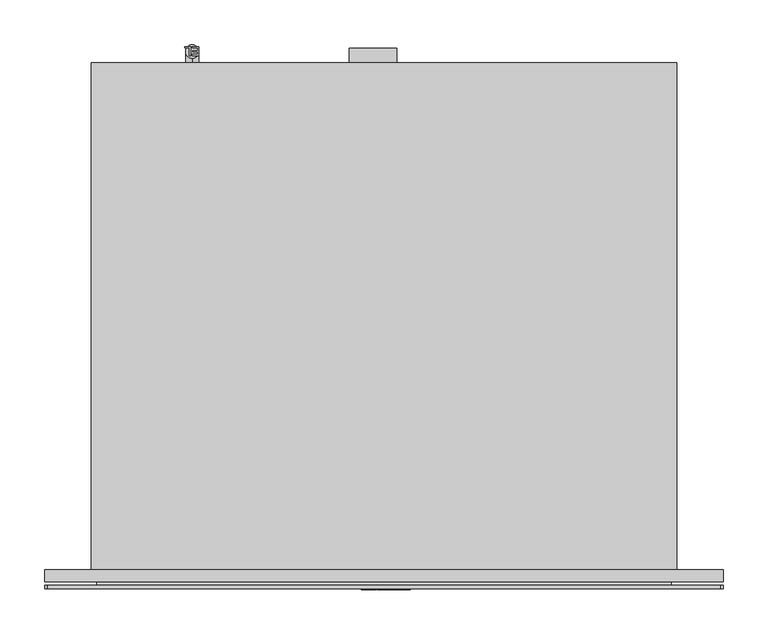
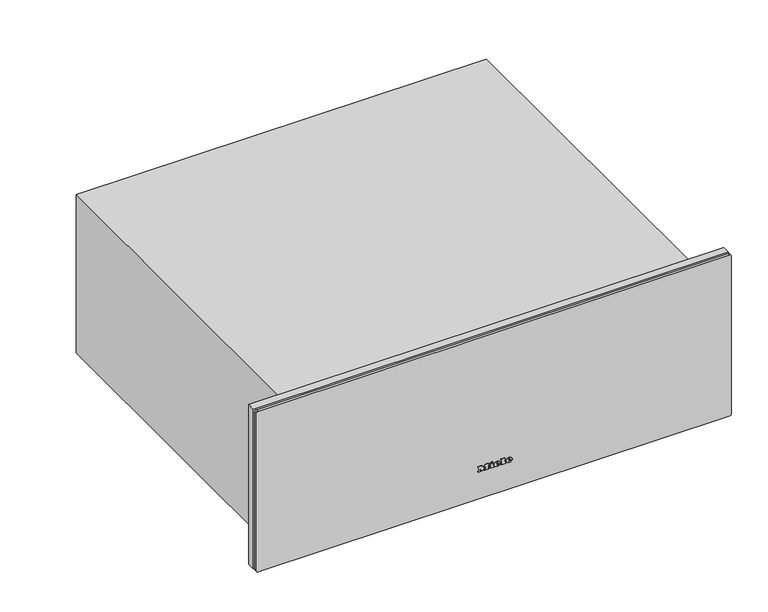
"""IFC4 building model written with IfcOpenShell, lengths in millimetres: proxy geometry, 11788760_BR_ESW7680_GRGR : 30768030_BR_11788760_ESW7680_GRGR."""

from ifc_helpers import new_model, si_unit, point, frame, frame_2d, origin, place, context, project, spatial, polyline, circle_curve, ellipse_curve, trimmed, segment, composite_curve, outline, extrude, faceted_brep, source, transform, mapped, element, save
from ifc_brep_helpers import plane_surface, cylinder_surface, revolved_surface, extruded_surface, advanced_brep


def specialty_equipment_8b60e592(model_context):
    return source(origin(), model_context, "Body", "SolidModel", [
        advanced_brep(
        [(23.263, -22.0, 52.133), (23.263, -22.0, 53.042), (29.284, -22.0, 53.042), (18.808, -22.0, 53.042), (21.283, -22.0, 50.0), (29.131, -22.0, 52.133), (26.413, -22.0, 52.133), (24.271, -22.0, 51.125), (23.263, -22.0, 54.194), (23.263, -22.0, 55.175), (24.802, -22.0, 55.175), (24.802, -22.0, 54.194), (23.263, -21.0, 52.133), (24.271, -21.0, 51.125), (26.413, -21.0, 52.133), (29.131, -21.0, 52.133), (21.283, -21.0, 50.0), (18.808, -21.0, 53.042), (29.284, -21.0, 53.042), (23.263, -21.0, 53.042), (23.263, -21.0, 54.194), (24.802, -21.0, 54.194), (24.802, -21.0, 55.175), (23.263, -21.0, 55.175)],
        [
            (0, 1),
            (1, 2),
            (2, 3, ellipse_curve(frame((24.046, -22.0, 53.042), z_axis=(0.0, -1.0, 0.0), x_axis=(-1.0, 0.0, 0.0)), 5.238, 4.329)),
            (3, 4, circle_curve(frame((22.2910491, -22.0, 53.348), z_axis=(0.0, -1.0, 0.0), x_axis=(0.0, 0.0, -1.0)), 3.4964649)),
            (4, 5, circle_curve(frame((23.9411428, -22.0, 55.724), z_axis=(0.0, -1.0, 0.0), x_axis=(0.0, 0.0, -1.0)), 6.3110933)),
            (5, 6),
            (6, 7, circle_curve(frame((24.7109412, -22.0, 52.97), z_axis=(0.0, 1.0, 0.0), x_axis=(0.0, 0.0, -1.0)), 1.896727)),
            (7, 0, circle_curve(frame((24.271, -22.0, 52.133), z_axis=(0.0, 1.0, 0.0), x_axis=(0.0, 0.0, -1.0)), 1.008)),
            (8, 9),
            (9, 10, circle_curve(frame((24.0325, -22.0, 55.175), z_axis=(0.0, 1.0, 0.0), x_axis=(0.0, 0.0, -1.0)), 0.7695)),
            (10, 11),
            (11, 8),
            (12, 13, circle_curve(frame((24.271, -21.0, 52.133), z_axis=(0.0, -1.0, 0.0), x_axis=(0.0, 0.0, -1.0)), 1.008)),
            (13, 14, circle_curve(frame((24.7109412, -21.0, 52.97), z_axis=(0.0, -1.0, 0.0), x_axis=(0.0, 0.0, -1.0)), 1.896727)),
            (14, 15),
            (15, 16, circle_curve(frame((23.9411428, -21.0, 55.724), z_axis=(0.0, 1.0, 0.0), x_axis=(0.0, 0.0, -1.0)), 6.3110933)),
            (16, 17, circle_curve(frame((22.2910491, -21.0, 53.348), z_axis=(0.0, 1.0, 0.0), x_axis=(0.0, 0.0, -1.0)), 3.4964649)),
            (17, 18, ellipse_curve(frame((24.046, -21.0, 53.042), z_axis=(0.0, 1.0, 0.0), x_axis=(-1.0, 0.0, 0.0)), 5.238, 4.329)),
            (18, 19),
            (19, 12),
            (20, 21),
            (21, 22),
            (22, 23, circle_curve(frame((24.0325, -21.0, 55.175), z_axis=(0.0, -1.0, 0.0), x_axis=(0.0, 0.0, -1.0)), 0.7695)),
            (23, 20),
            (0, 12),
            (19, 1),
            (18, 2),
            (5, 15),
            (14, 6),
            (17, 3),
            (13, 7),
            (16, 4),
            (8, 20),
            (23, 9),
            (22, 10),
            (21, 11),
        ],
        [
            plane_surface(frame((23.263, -22.0, 53.042), z_axis=(0.0, -1.0, 0.0), x_axis=(0.0, 0.0, 1.0))),
            plane_surface(frame((23.263, -21.0, 53.042), z_axis=(0.0, 1.0, 0.0), x_axis=(0.0, 0.0, -1.0))),
            plane_surface(frame((23.263, -22.0, 52.133), z_axis=(1.0, 0.0, 0.0), x_axis=(0.0, 1.0, 0.0))),
            plane_surface(frame((23.263, -22.0, 53.042), z_axis=(0.0, 0.0, -1.0), x_axis=(0.0, 1.0, 0.0))),
            plane_surface(frame((29.131, -22.0, 52.133), z_axis=(0.0, 0.0, 1.0), x_axis=(0.0, 1.0, 0.0))),
            extruded_surface(trimmed(ellipse_curve(frame((24.046, -20.0, 53.042), z_axis=(0.0, -1.0, 0.0), x_axis=(-1.0, 0.0, 0.0)), 5.238, 4.329), [point((29.284, -20.0, 53.042))], [point((18.808, -20.0, 53.042))], True, "CARTESIAN"), (0.0, -1.0, 0.0), 1.0),
            revolved_surface(polyline([(24.7109412, -21.0, 51.073273), (24.7109412, -22.0, 51.073273)]), (24.7109412, -21.0, 52.97), (0.0, 1.0, 0.0)),
            revolved_surface(polyline([(24.271, -21.0, 51.125), (24.271, -22.0, 51.125)]), (24.271, -21.0, 52.133), (0.0, 1.0, 0.0)),
            cylinder_surface(frame((22.2910491, -21.0, 53.348), z_axis=(0.0, -1.0, 0.0), x_axis=(0.0, 0.0, -1.0)), 3.4964649),
            cylinder_surface(frame((23.9411428, -21.0, 55.724), z_axis=(0.0, -1.0, 0.0), x_axis=(0.0, 0.0, -1.0)), 6.3110933),
            plane_surface(frame((23.263, -22.0, 54.194), z_axis=(1.0, 0.0, 0.0), x_axis=(0.0, 1.0, 0.0))),
            revolved_surface(polyline([(24.0325, -21.0, 54.405499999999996), (24.0325, -22.0, 54.405499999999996)]), (24.0325, -21.0, 55.175), (0.0, 1.0, 0.0)),
            plane_surface(frame((24.802, -22.0, 55.175), z_axis=(-1.0, 0.0, 0.0), x_axis=(0.0, 1.0, 0.0))),
            plane_surface(frame((24.802, -22.0, 54.194), z_axis=(0.0, 0.0, 1.0), x_axis=(0.0, 1.0, 0.0))),
        ],
        [
            (0, [[1, 2, 3, 4, 5, 6, 7, 8], [9, 10, 11, 12]]),
            (1, [[13, 14, 15, 16, 17, 18, 19, 20], [21, 22, 23, 24]]),
            (2, [[-1, 25, -20, 26]]),
            (3, [[-2, -26, -19, 27]]),
            (4, [[-6, 28, -15, 29]]),
            (5, [[-3, -27, -18, 30]]),
            (6, [[-7, -29, -14, 31]]),
            (7, [[-8, -31, -13, -25]]),
            (8, [[-4, -30, -17, 32]]),
            (9, [[-5, -32, -16, -28]]),
            (10, [[-9, 33, -24, 34]]),
            (11, [[-10, -34, -23, 35]]),
            (12, [[-11, -35, -22, 36]]),
            (13, [[-12, -36, -21, -33]]),
        ],
    ),
        advanced_brep(
        [(4.48, -22.0, 52.133), (4.48, -22.0, 53.042), (10.501, -22.0, 53.042), (0.025, -22.0, 53.042), (2.5, -22.0, 50.0), (10.348, -22.0, 52.133), (7.63, -22.0, 52.133), (5.488, -22.0, 51.125), (4.48, -22.0, 54.194), (4.48, -22.0, 55.175), (6.019, -22.0, 55.175), (6.019, -22.0, 54.194), (4.48, -21.0, 52.133), (5.488, -21.0, 51.125), (7.63, -21.0, 52.133), (10.348, -21.0, 52.133), (2.5, -21.0, 50.0), (0.025, -21.0, 53.042), (10.501, -21.0, 53.042), (4.48, -21.0, 53.042), (4.48, -21.0, 54.194), (6.019, -21.0, 54.194), (6.019, -21.0, 55.175), (4.48, -21.0, 55.175)],
        [
            (0, 1),
            (1, 2),
            (2, 3, ellipse_curve(frame((5.263, -22.0, 53.042), z_axis=(0.0, -1.0, 0.0), x_axis=(-1.0, 0.0, 0.0)), 5.238, 4.329)),
            (3, 4, circle_curve(frame((3.5080491, -22.0, 53.348), z_axis=(0.0, -1.0, 0.0), x_axis=(0.0, 0.0, -1.0)), 3.4964649)),
            (4, 5, circle_curve(frame((5.1581428, -22.0, 55.724), z_axis=(0.0, -1.0, 0.0), x_axis=(0.0, 0.0, -1.0)), 6.3110933)),
            (5, 6),
            (6, 7, circle_curve(frame((5.9279412, -22.0, 52.97), z_axis=(0.0, 1.0, 0.0), x_axis=(0.0, 0.0, -1.0)), 1.896727)),
            (7, 0, circle_curve(frame((5.488, -22.0, 52.133), z_axis=(0.0, 1.0, 0.0), x_axis=(0.0, 0.0, -1.0)), 1.008)),
            (8, 9),
            (9, 10, circle_curve(frame((5.2495, -22.0, 55.175), z_axis=(0.0, 1.0, 0.0), x_axis=(0.0, 0.0, -1.0)), 0.7695)),
            (10, 11),
            (11, 8),
            (12, 13, circle_curve(frame((5.488, -21.0, 52.133), z_axis=(0.0, -1.0, 0.0), x_axis=(0.0, 0.0, -1.0)), 1.008)),
            (13, 14, circle_curve(frame((5.9279412, -21.0, 52.97), z_axis=(0.0, -1.0, 0.0), x_axis=(0.0, 0.0, -1.0)), 1.896727)),
            (14, 15),
            (15, 16, circle_curve(frame((5.1581428, -21.0, 55.724), z_axis=(0.0, 1.0, 0.0), x_axis=(0.0, 0.0, -1.0)), 6.3110933)),
            (16, 17, circle_curve(frame((3.5080491, -21.0, 53.348), z_axis=(0.0, 1.0, 0.0), x_axis=(0.0, 0.0, -1.0)), 3.4964649)),
            (17, 18, ellipse_curve(frame((5.263, -21.0, 53.042), z_axis=(0.0, 1.0, 0.0), x_axis=(-1.0, 0.0, 0.0)), 5.238, 4.329)),
            (18, 19),
            (19, 12),
            (20, 21),
            (21, 22),
            (22, 23, circle_curve(frame((5.2495, -21.0, 55.175), z_axis=(0.0, -1.0, 0.0), x_axis=(0.0, 0.0, -1.0)), 0.7695)),
            (23, 20),
            (0, 12),
            (19, 1),
            (18, 2),
            (5, 15),
            (14, 6),
            (17, 3),
            (13, 7),
            (16, 4),
            (8, 20),
            (23, 9),
            (22, 10),
            (21, 11),
        ],
        [
            plane_surface(frame((4.48, -22.0, 53.042), z_axis=(0.0, -1.0, 0.0), x_axis=(0.0, 0.0, 1.0))),
            plane_surface(frame((4.48, -21.0, 53.042), z_axis=(0.0, 1.0, 0.0), x_axis=(0.0, 0.0, -1.0))),
            plane_surface(frame((4.48, -22.0, 52.133), z_axis=(1.0, 0.0, 0.0), x_axis=(0.0, 1.0, 0.0))),
            plane_surface(frame((4.48, -22.0, 53.042), z_axis=(0.0, 0.0, -1.0), x_axis=(0.0, 1.0, 0.0))),
            plane_surface(frame((10.348, -22.0, 52.133), z_axis=(0.0, 0.0, 1.0), x_axis=(0.0, 1.0, 0.0))),
            extruded_surface(trimmed(ellipse_curve(frame((5.263, -20.0, 53.042), z_axis=(0.0, -1.0, 0.0), x_axis=(-1.0, 0.0, 0.0)), 5.238, 4.329), [point((10.501, -20.0, 53.042))], [point((0.025, -20.0, 53.042))], True, "CARTESIAN"), (0.0, -1.0, 0.0), 1.0),
            revolved_surface(polyline([(5.9279412, -21.0, 51.073273), (5.9279412, -22.0, 51.073273)]), (5.9279412, -21.0, 52.97), (0.0, 1.0, 0.0)),
            revolved_surface(polyline([(5.488, -21.0, 51.125), (5.488, -22.0, 51.125)]), (5.488, -21.0, 52.133), (0.0, 1.0, 0.0)),
            cylinder_surface(frame((3.5080491, -21.0, 53.348), z_axis=(0.0, -1.0, 0.0), x_axis=(0.0, 0.0, -1.0)), 3.4964649),
            cylinder_surface(frame((5.1581428, -21.0, 55.724), z_axis=(0.0, -1.0, 0.0), x_axis=(0.0, 0.0, -1.0)), 6.3110933),
            plane_surface(frame((4.48, -22.0, 54.194), z_axis=(1.0, 0.0, 0.0), x_axis=(0.0, 1.0, 0.0))),
            revolved_surface(polyline([(5.2495, -21.0, 54.405499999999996), (5.2495, -22.0, 54.405499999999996)]), (5.2495, -21.0, 55.175), (0.0, 1.0, 0.0)),
            plane_surface(frame((6.019, -22.0, 55.175), z_axis=(-1.0, 0.0, 0.0), x_axis=(0.0, 1.0, 0.0))),
            plane_surface(frame((6.019, -22.0, 54.194), z_axis=(0.0, 0.0, 1.0), x_axis=(0.0, 1.0, 0.0))),
        ],
        [
            (0, [[1, 2, 3, 4, 5, 6, 7, 8], [9, 10, 11, 12]]),
            (1, [[13, 14, 15, 16, 17, 18, 19, 20], [21, 22, 23, 24]]),
            (2, [[-1, 25, -20, 26]]),
            (3, [[-2, -26, -19, 27]]),
            (4, [[-6, 28, -15, 29]]),
            (5, [[-3, -27, -18, 30]]),
            (6, [[-7, -29, -14, 31]]),
            (7, [[-8, -31, -13, -25]]),
            (8, [[-4, -30, -17, 32]]),
            (9, [[-5, -32, -16, -28]]),
            (10, [[-9, 33, -24, 34]]),
            (11, [[-10, -34, -23, 35]]),
            (12, [[-11, -35, -22, 36]]),
            (13, [[-12, -36, -21, -33]]),
        ],
    ),
        extrude(outline(polyline([(58.469, -5.357), (57.011, -4.673), (58.433, -1.622), (59.891, -2.297), (58.469, -5.357)])), frame((0.0, -22.0, 0.0), z_axis=(0.0, 1.0, 0.0), x_axis=(0.0, 0.0, 1.0)), (0.0, 0.0, 1.0), 1.0),
        extrude(outline(polyline([(56.813, -7.58), (55.202, -7.58), (55.202, -6.509), (51.512, -6.509), (51.512, -7.58), (50.0, -7.58), (50.0, -0.479), (51.512, -0.479), (51.512, -1.523), (56.813, -1.523), (56.813, -7.58)])), frame((0.0, -22.0, 0.0), z_axis=(0.0, 1.0, 0.0), x_axis=(0.0, 0.0, 1.0)), (0.0, 0.0, 1.0), 1.0),
        extrude(outline(polyline([(57.533, 11.005), (57.533, 12.085), (51.512, 12.085), (51.512, 11.005), (50.0, 11.005), (50.0, 18.304), (51.512, 18.304), (51.512, 17.197), (59.0, 17.197), (59.0, 11.005), (57.533, 11.005)])), frame((0.0, -22.0, 0.0), z_axis=(0.0, 1.0, 0.0), x_axis=(0.0, 0.0, 1.0)), (0.0, 0.0, 1.0), 1.0),
        extrude(outline(polyline([(57.533, -25.517), (57.533, -24.428), (51.512, -24.428), (51.512, -25.517), (50.0, -25.517), (50.0, -21.557), (51.512, -21.557), (51.512, -22.637), (55.3341247, -22.637), (50.0, -18.614), (55.4402223, -14.573), (51.512, -14.573), (51.512, -15.68), (50.0, -15.68), (50.0, -8.498), (51.512, -8.498), (51.512, -9.641), (57.533, -9.641), (57.533, -8.498), (59.0, -8.498), (59.0, -13.979), (55.625, -16.607), (59.0, -19.244), (59.0, -25.517), (57.533, -25.517)])), frame((0.0, -22.0, 0.0), z_axis=(0.0, 1.0, 0.0), x_axis=(0.0, 0.0, 1.0)), (0.0, 0.0, 1.0), 1.0),
        extrude(outline(polyline([(19.0, 249.0), (19.0, 208.0), (4.0, 208.0), (4.0, 65.0), (-13.0, 65.0), (-13.0, 249.0), (19.0, 249.0)])), frame((-316.5, 0.0, 0.0), z_axis=(1.0, 0.0, 0.0), x_axis=(0.0, 1.0, 0.0)), (0.0, 0.0, 1.0), 633.0),
        extrude(outline(composite_curve([segment(polyline([(275.0, 375.5), (275.0, -375.5)]), True, "CONTINUOUS"), segment(trimmed(circle_curve(frame_2d((272.0, -375.5)), 3.0), [point((275.0, -375.5))], [point((272.0, -378.5))], False, "CARTESIAN"), True, "CONTINUOUS"), segment(polyline([(272.0, -378.5), (7.0, -378.5)]), True, "CONTINUOUS"), segment(trimmed(circle_curve(frame_2d((7.0, -375.5)), 3.0), [point((7.0, -378.5))], [point((4.0, -375.5))], False, "CARTESIAN"), True, "CONTINUOUS"), segment(polyline([(4.0, -375.5), (4.0, 375.5)]), True, "CONTINUOUS"), segment(trimmed(circle_curve(frame_2d((7.0, 375.5)), 3.0), [point((4.0, 375.5))], [point((7.0, 378.5))], False, "CARTESIAN"), True, "CONTINUOUS"), segment(polyline([(7.0, 378.5), (272.0, 378.5)]), True, "CONTINUOUS"), segment(trimmed(circle_curve(frame_2d((272.0, 375.5)), 3.0), [point((272.0, 378.5))], [point((275.0, 375.5))], False, "CARTESIAN"), True, "CONTINUOUS")], self_intersect=False)), frame((0.0, -21.0, 0.0), z_axis=(0.0, 1.0, 0.0), x_axis=(0.0, 0.0, 1.0)), (0.0, 0.0, 1.0), 4.0),
        extrude(outline(polyline([(-320.5, -13.0), (320.5, -13.0), (320.5, -17.0), (-320.5, -17.0), (-320.5, -13.0)])), frame((0.0, 0.0, 38.0), z_axis=(0.0, 0.0, 1.0), x_axis=(1.0, 0.0, 0.0)), (0.0, 0.0, 1.0), 219.0),
        extrude(outline(polyline([(-206.6227397, 584.030815), (-206.6227397, 573.985184), (-213.843037, 573.985184), (-213.843037, 575.2408878), (-207.8784436, 575.2408878), (-207.8784436, 578.2231846), (-213.529111, 578.2231846), (-213.529111, 579.4788884), (-207.8784436, 579.4788884), (-207.8784436, 582.7751111), (-214.0, 582.7751111), (-214.0, 584.030815), (-206.6227397, 584.030815)])), frame((0.0, 0.0, 68.0), z_axis=(0.0, 0.0, 1.0), x_axis=(1.0, 0.0, 0.0)), (0.0, 0.0, 1.0), 1.0),
        extrude(outline(polyline([(-215.8835558, 584.030815), (-215.8835558, 573.985184), (-217.1392597, 573.985184), (-217.1392597, 582.7751111), (-222.1620752, 582.7751111), (-222.1620752, 584.030815), (-215.8835558, 584.030815)])), frame((0.0, 0.0, 68.0), z_axis=(0.0, 0.0, 1.0), x_axis=(1.0, 0.0, 0.0)), (0.0, 0.0, 1.0), 1.0),
        advanced_brep(
        [(-214.0, 566.0, 45.5), (-214.0, 566.0, 30.5), (-214.0, 571.0, 45.5), (-214.0, 586.0, 30.5), (-214.0, 571.0, 68.0), (-214.0, 586.0, 68.0)],
        [
            (0, 1, circle_curve(frame((-214.0, 566.0, 38.0), z_axis=(0.0, -1.0, 0.0), x_axis=(0.0, 0.0, -1.0)), 7.5)),
            (1, 0, circle_curve(frame((-214.0, 566.0, 38.0), z_axis=(0.0, -1.0, 0.0), x_axis=(0.0, 0.0, -1.0)), 7.5)),
            (0, 2),
            (2, 3, ellipse_curve(frame((-214.0, 578.5, 38.0), z_axis=(0.0, -0.7071067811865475, -0.7071067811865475), x_axis=(0.0, -0.7071067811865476, 0.7071067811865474)), 10.6066017, 7.5)),
            (3, 1),
            (3, 2, ellipse_curve(frame((-214.0, 578.5, 38.0), z_axis=(0.0, -0.7071067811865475, -0.7071067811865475), x_axis=(0.0, -0.7071067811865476, 0.7071067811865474)), 10.6066017, 7.5)),
            (4, 5, circle_curve(frame((-214.0, 578.5, 68.0), z_axis=(0.0, 0.0, 1.0), x_axis=(0.0, 1.0, 0.0)), 7.5)),
            (5, 4, circle_curve(frame((-214.0, 578.5, 68.0), z_axis=(0.0, 0.0, 1.0), x_axis=(0.0, 1.0, 0.0)), 7.5)),
            (2, 4),
            (5, 3),
        ],
        [
            plane_surface(frame((-214.0, 566.0, 38.0), z_axis=(0.0, -1.0, 0.0), x_axis=(-1.0, 0.0, 0.0))),
            cylinder_surface(frame((-214.0, 566.0, 38.0), z_axis=(0.0, -1.0, 0.0), x_axis=(0.0, 0.0, -1.0)), 7.5),
            plane_surface(frame((-214.0, 578.5, 68.0), z_axis=(0.0, 0.0, 1.0), x_axis=(-1.0, 0.0, 0.0))),
            cylinder_surface(frame((-214.0, 578.5, 38.0), z_axis=(0.0, 0.0, -1.0), x_axis=(0.0, 1.0, 0.0)), 7.5),
        ],
        [
            (0, [[1, 2]]),
            (1, [[-1, 3, 4, 5]]),
            (1, [[-2, -5, 6, -3]]),
            (2, [[7, 8]]),
            (3, [[-4, 9, -8, 10]]),
            (3, [[-6, -10, -7, -9]]),
        ],
    ),
        extrude(outline(polyline([(-39.0, 582.0), (14.0, 582.0), (14.0, 566.0), (-39.0, 566.0), (-39.0, 582.0)])), frame((0.0, 0.0, 35.0), z_axis=(0.0, 0.0, 1.0), x_axis=(1.0, 0.0, 0.0)), (0.0, 0.0, 1.0), 29.0),
        faceted_brep([(326.5, 566.0, 267.0), (-326.5, 566.0, 267.0), (-326.5, 0.0, 267.0), (326.5, 0.0, 267.0), (326.5, 566.0, 0.0), (326.5, 0.0, 0.0), (-326.5, 0.0, 0.0), (-326.5, 566.0, 0.0), (324.5, 0.0, 255.0), (324.5, 0.0, 32.0), (-324.5, 0.0, 32.0), (-324.5, 0.0, 255.0), (324.5, 561.0, 255.0), (-324.5, 561.0, 255.0), (-324.5, 561.0, 32.0), (324.5, 561.0, 32.0)], [[[0, 1, 2, 3]], [[4, 5, 6, 7]], [[1, 0, 4, 7]], [[2, 1, 7, 6]], [[3, 2, 6, 5], [8, 9, 10, 11]], [[0, 3, 5, 4]], [[12, 13, 14, 15]], [[12, 15, 9, 8]], [[15, 14, 10, 9]], [[14, 13, 11, 10]], [[13, 12, 8, 11]]]),
        faceted_brep([(378.5, -13.0, 274.5), (-378.5, -13.0, 274.5), (-378.5, -13.0, 5.5), (-324.5, -13.0, 5.5), (-324.5, -13.0, 32.0), (-324.5, -13.0, 255.0), (324.5, -13.0, 255.0), (324.5, -13.0, 32.0), (324.5, -13.0, 5.5), (378.5, -13.0, 5.5), (378.5, 0.0, 274.5), (378.5, 0.0, 5.5), (324.5, 0.0, 5.5), (324.5, 0.0, 32.0), (324.5, 0.0, 255.0), (-324.5, 0.0, 255.0), (-324.5, 0.0, 32.0), (-324.5, 0.0, 5.5), (-378.5, 0.0, 5.5), (-378.5, 0.0, 274.5)], [[[0, 1, 2, 3, 4, 5, 6, 7, 8, 9]], [[10, 11, 12, 13, 14, 15, 16, 17, 18, 19]], [[0, 9, 11, 10]], [[9, 8, 12, 11]], [[2, 1, 19, 18]], [[1, 0, 10, 19]], [[12, 8, 7, 6, 14, 13]], [[6, 5, 15, 14]], [[15, 5, 4, 3, 17, 16]], [[3, 2, 18, 17]]]),
    ])


if __name__ == "__main__":
    model = new_model("IFC4")
    model_context = context("Model", 3, world=origin())
    ifc_project = project(units=[si_unit("LENGTHUNIT", "METRE", prefix="MILLI")], contexts=[model_context])
    site = spatial("IfcSite", under=ifc_project)
    building = spatial("IfcBuilding", under=site)
    placement = place(None, origin())
    specialty_equipment_shape = specialty_equipment_8b60e592(model_context)
    element("IfcBuildingElementProxy", 1, Name="11788760_BR_ESW7680_GRGR : 30768030_BR_11788760_ESW7680_GRGR", ObjectType="11788760_BR_ESW7680_GRGR : 30768030_BR_11788760_ESW7680_GRGR", at=placement, inside=building, context=model_context, shape_type="MappedRepresentation", body=[
        mapped(specialty_equipment_shape, transform((0.0, 0.0, 0.0), x_axis=(1.0, 0.0, 0.0), y_axis=(0.0, 1.0, 0.0), z_axis=(0.0, 0.0, 1.0))),
    ])
    save(model, "model.ifc")
